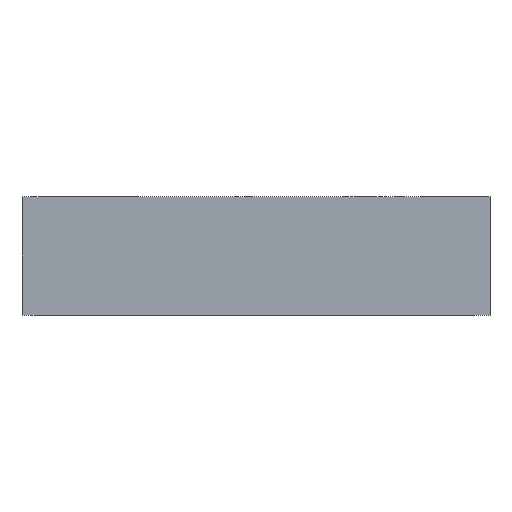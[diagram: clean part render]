
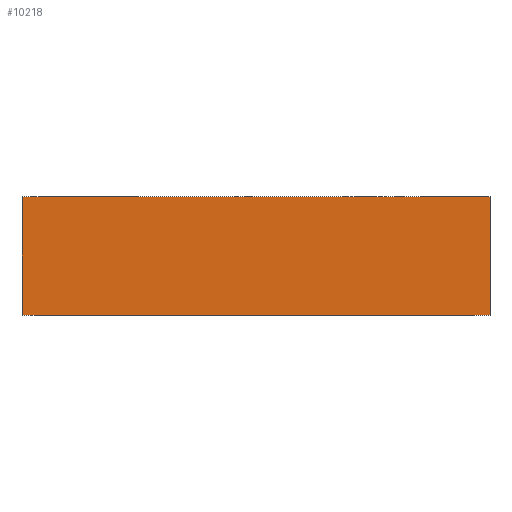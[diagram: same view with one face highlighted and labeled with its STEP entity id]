
A CAD part, left-side view. The second image highlights one B-rep face of the part: STEP entity #10218.
In plain terms, the highlighted planar face has unit normal (-1, 0, 0).
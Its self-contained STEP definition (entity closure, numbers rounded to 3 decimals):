
#4559 = VERTEX_POINT ( 'NONE', #7081 ) ;
#4568 = VERTEX_POINT ( 'NONE', #7106 ) ;
#4582 = EDGE_CURVE ( 'NONE', #4568, #4559, #7172, .T. ) ;
#7081 = CARTESIAN_POINT ( 'NONE',  ( -18.5, -26.9, 0. ) ) ;
#7106 = CARTESIAN_POINT ( 'NONE',  ( -18.5, 26.9, 0. ) ) ;
#7169 = DIRECTION ( 'NONE',  ( 0., -1., 0. ) ) ;
#7170 = VECTOR ( 'NONE', #7169, 1000. ) ;
#7171 = CARTESIAN_POINT ( 'NONE',  ( -18.5, 26.9, 0. ) ) ;
#7172 = LINE ( 'NONE', #7171, #7170 ) ;
#7966 = DIRECTION ( 'NONE',  ( 0., 0., -1. ) ) ;
#7967 = VECTOR ( 'NONE', #7966, 1000. ) ;
#7968 = CARTESIAN_POINT ( 'NONE',  ( -18.5, 26.9, 13.6 ) ) ;
#7969 = LINE ( 'NONE', #7968, #7967 ) ;
#7992 = DIRECTION ( 'NONE',  ( 0., -1., 0. ) ) ;
#7993 = VECTOR ( 'NONE', #7992, 1000. ) ;
#7994 = CARTESIAN_POINT ( 'NONE',  ( -18.5, 26.9, 13.6 ) ) ;
#7995 = LINE ( 'NONE', #7994, #7993 ) ;
#8048 = CARTESIAN_POINT ( 'NONE',  ( -18.5, 26.9, 13.6 ) ) ;
#8049 = CARTESIAN_POINT ( 'NONE',  ( -18.5, -26.9, 13.6 ) ) ;
#8059 = FACE_OUTER_BOUND ( 'NONE', #9537, .T. ) ;
#8079 = DIRECTION ( 'NONE',  ( 0., 0., -1. ) ) ;
#8080 = VECTOR ( 'NONE', #8079, 1000. ) ;
#8081 = CARTESIAN_POINT ( 'NONE',  ( -18.5, -26.9, 13.6 ) ) ;
#8087 = LINE ( 'NONE', #8081, #8080 ) ;
#8097 = DIRECTION ( 'NONE',  ( 0., 1., 0. ) ) ;
#8098 = DIRECTION ( 'NONE',  ( 1., 0., 0. ) ) ;
#8099 = CARTESIAN_POINT ( 'NONE',  ( -18.5, 26.9, 13.6 ) ) ;
#8100 = AXIS2_PLACEMENT_3D ( 'NONE', #8099, #8098, #8097 ) ;
#8102 = PLANE ( 'NONE',  #8100 ) ;
#8782 = EDGE_CURVE ( 'NONE', #9261, #4568, #7969, .T. ) ;
#9022 = ORIENTED_EDGE ( 'NONE', *, *, #9241, .F. ) ;
#9241 = EDGE_CURVE ( 'NONE', #9261, #9255, #7995, .T. ) ;
#9255 = VERTEX_POINT ( 'NONE', #8049 ) ;
#9261 = VERTEX_POINT ( 'NONE', #8048 ) ;
#9274 = ORIENTED_EDGE ( 'NONE', *, *, #8782, .T. ) ;
#9537 = EDGE_LOOP ( 'NONE', ( #9538, #9746, #9022, #9274 ) ) ;
#9538 = ORIENTED_EDGE ( 'NONE', *, *, #4582, .T. ) ;
#9711 = EDGE_CURVE ( 'NONE', #9255, #4559, #8087, .T. ) ;
#9746 = ORIENTED_EDGE ( 'NONE', *, *, #9711, .F. ) ;
#10218 = ADVANCED_FACE ( 'NONE', ( #8059 ), #8102, .F. ) ;
